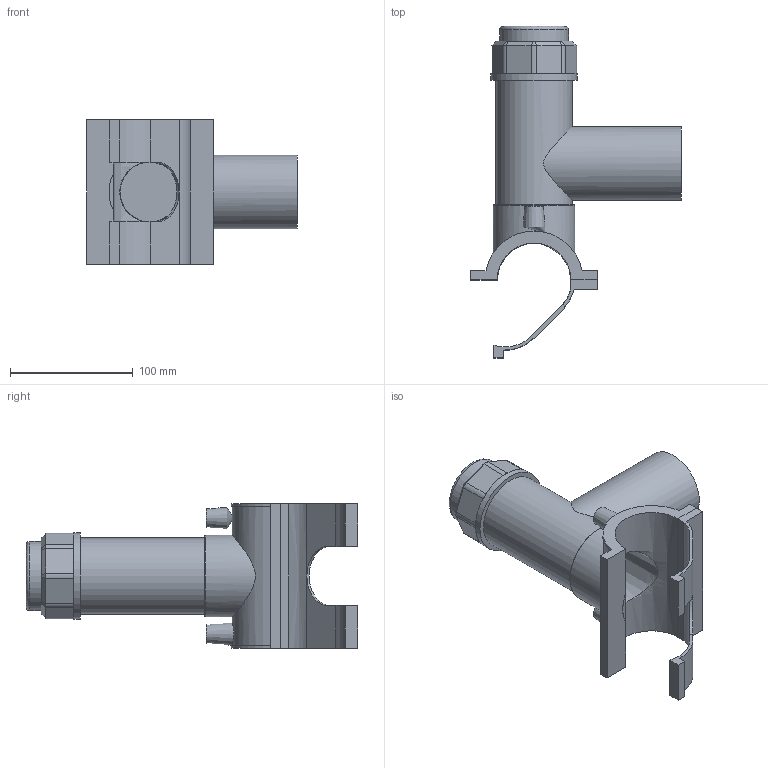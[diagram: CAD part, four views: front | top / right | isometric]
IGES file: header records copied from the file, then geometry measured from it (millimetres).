
Global section: file name: 5963BB03020020.ipt; native system: Autodesk Inventor 2019; preprocessor: unknown; author: KIM; date: 20210830.101341; units: millimetre
Bounding box: 171.32 x 270.48 x 118.11 mm (x, y, z)
Volume: 554055.9 mm3; surface area: 149839.6 mm2
Topology: 3 solids, 3 shells, 103 faces, 246 edges, 161 vertices
Faces by surface type: plane 59, cylinder 23, cone 11, revolution 10
Full cylindrical faces by diameter (mm): 4 x2, 56.254 x1, 60.1 x1, 62.068 x1, 66.801 x1, 70.317 x1
